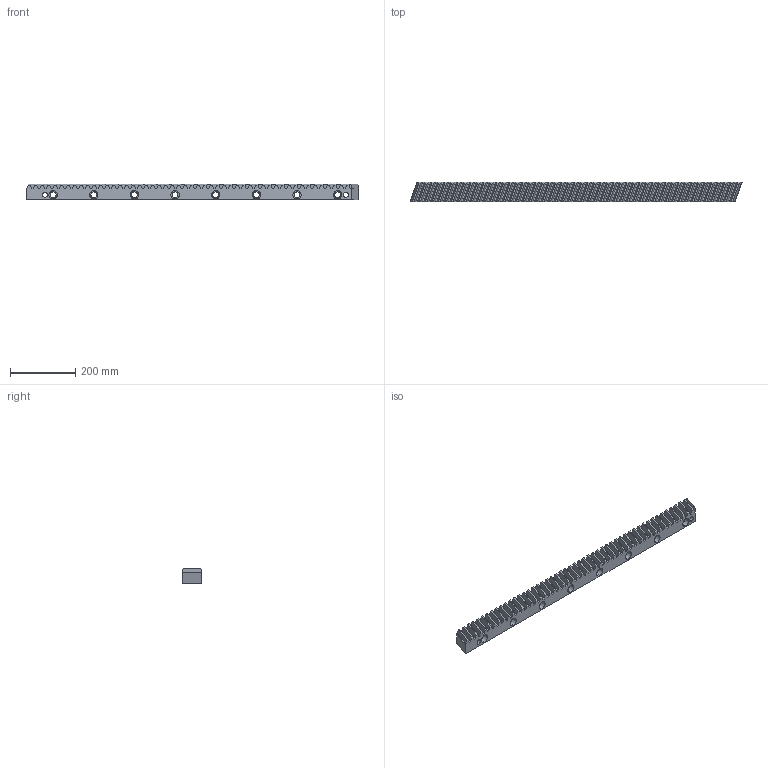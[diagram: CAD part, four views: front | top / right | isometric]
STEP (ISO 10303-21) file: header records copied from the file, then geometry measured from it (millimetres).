
FILE_DESCRIPTION (( 'STEP AP203' ), '1' );
FILE_NAME ('FX2 33 171 211.STEP', '2023-04-06T06:24:01', ( '' ), ( '' ), 'SwSTEP 2.0', 'SolidWorks 2010', '' );
FILE_SCHEMA (( 'CONFIG_CONTROL_DESIGN' ));
Length unit declared in the file: millimetre
Products named in the file (1): FX2 33 171 211
Bounding box: 1020.89 x 59 x 49 mm (x, y, z)
Volume: 2308378.7 mm3; surface area: 298237.3 mm2
Topology: 1 solids, 1 shells, 1337 faces, 3732 edges, 2488 vertices
Faces by surface type: plane 931, bspline 370, cylinder 36
Entity records: 69051 total; most frequent: CARTESIAN_POINT 37024, ORIENTED_EDGE 7464, DIRECTION 5000, EDGE_CURVE 3732, LINE 2920, VECTOR 2920, VERTEX_POINT 2488, EDGE_LOOP 1448
